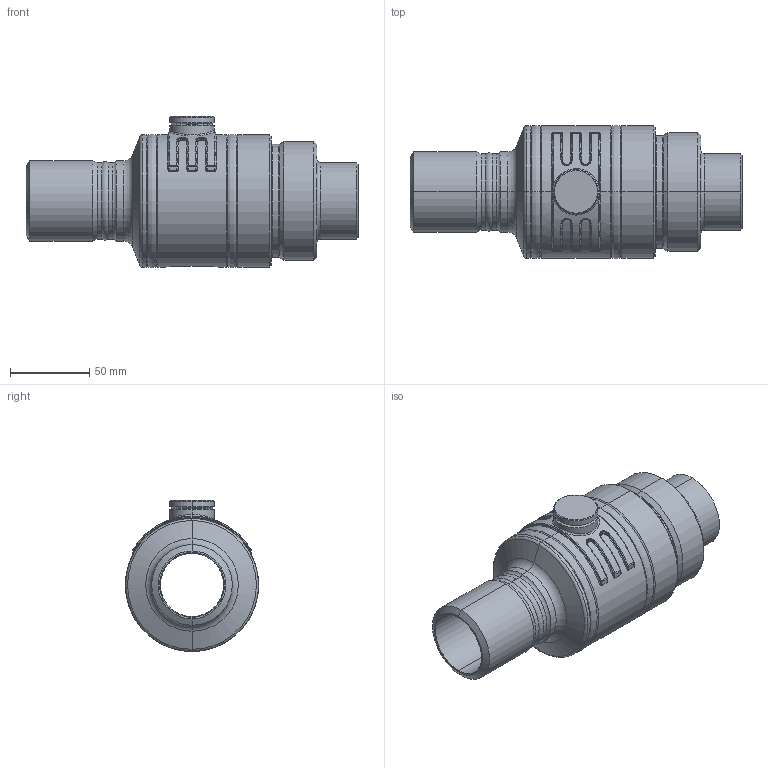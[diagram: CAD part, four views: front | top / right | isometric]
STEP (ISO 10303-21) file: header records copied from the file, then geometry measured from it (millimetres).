
FILE_DESCRIPTION((''),'2;1');
FILE_NAME('KHMO-AB-V-ISKT-040P040','2025-02-11T14:28:44',('jeitlers'),('KLINGER'),'CREO PARAMETRIC BY PTC INC, 2023014','CREO PARAMETRIC BY PTC INC, 2023014','');
FILE_SCHEMA(('CONFIG_CONTROL_DESIGN'));
Length unit declared in the file: millimetre
Products named in the file (1): KHMO-AB-V-ISKT-040P040
Bounding box: 210 x 84.45 x 95.72 mm (x, y, z)
Volume: 460293.6 mm3; surface area: 124423.2 mm2
Topology: 2 solids, 2 shells, 448 faces, 985 edges, 565 vertices
Faces by surface type: cylinder 135, torus 114, plane 83, cone 78, bspline 36, sphere 2
Entity records: 19915 total; most frequent: CARTESIAN_POINT 10009, DIRECTION 2258, ORIENTED_EDGE 1966, EDGE_CURVE 983, AXIS2_PLACEMENT_3D 981, CIRCLE 569, VERTEX_POINT 565, EDGE_LOOP 482
